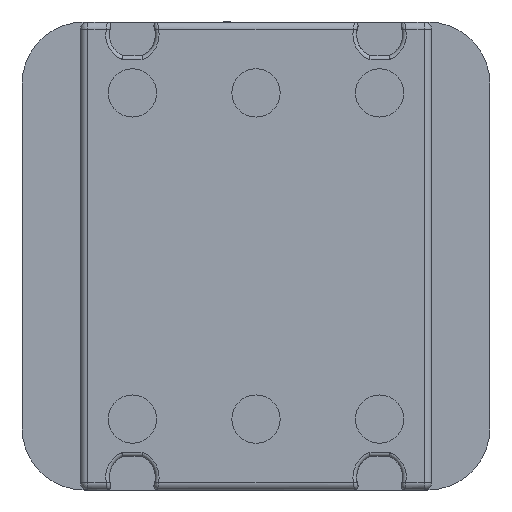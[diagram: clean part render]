
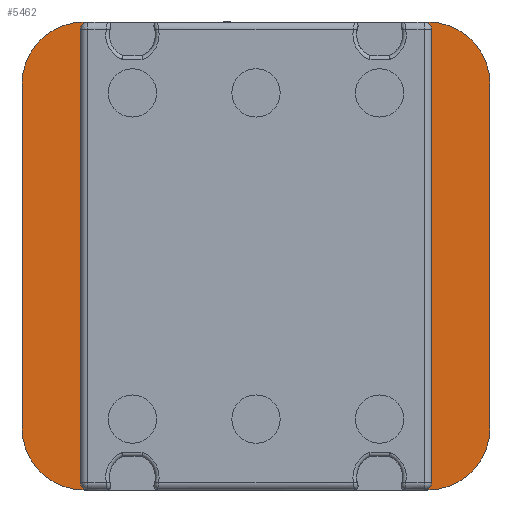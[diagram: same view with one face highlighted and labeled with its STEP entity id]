
A CAD part, front view. The second image highlights one B-rep face of the part: STEP entity #5462.
In plain terms, the highlighted planar face has unit normal (0, -1, 0).
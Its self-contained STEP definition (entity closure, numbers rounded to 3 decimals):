
#209 = EDGE_CURVE ( 'NONE', #9096, #5317, #3159, .T. ) ;
#319 = AXIS2_PLACEMENT_3D ( 'NONE', #6802, #479, #7835 ) ;
#354 = CARTESIAN_POINT ( 'NONE',  ( 440.451, 184.516, 56. ) ) ;
#479 = DIRECTION ( 'NONE',  ( 0., 1., 0. ) ) ;
#542 = VERTEX_POINT ( 'NONE', #354 ) ;
#682 = VERTEX_POINT ( 'NONE', #5764 ) ;
#704 = DIRECTION ( 'NONE',  ( 1., 0., 0. ) ) ;
#835 = DIRECTION ( 'NONE',  ( 0., 0., -1. ) ) ;
#933 = AXIS2_PLACEMENT_3D ( 'NONE', #10105, #3885, #11153 ) ;
#948 = VECTOR ( 'NONE', #835, 1000. ) ;
#1130 = CARTESIAN_POINT ( 'NONE',  ( 440.451, 184.516, 0.5 ) ) ;
#1266 = CARTESIAN_POINT ( 'NONE',  ( 393.451, 184.516, 47.5 ) ) ;
#1611 = CARTESIAN_POINT ( 'NONE',  ( 384.951, 184.516, 47.5 ) ) ;
#1714 = ORIENTED_EDGE ( 'NONE', *, *, #10300, .F. ) ;
#1856 = ORIENTED_EDGE ( 'NONE', *, *, #6941, .F. ) ;
#2343 = DIRECTION ( 'NONE',  ( 0., 0., 1. ) ) ;
#2440 = AXIS2_PLACEMENT_3D ( 'NONE', #1266, #8620, #2343 ) ;
#2486 = LINE ( 'NONE', #4342, #10479 ) ;
#2516 = ORIENTED_EDGE ( 'NONE', *, *, #10109, .F. ) ;
#2634 = CARTESIAN_POINT ( 'NONE',  ( 384.951, 184.516, 0.5 ) ) ;
#3080 = CARTESIAN_POINT ( 'NONE',  ( 448.951, 184.516, -8. ) ) ;
#3159 = CIRCLE ( 'NONE', #7218, 8.5 ) ;
#3178 = EDGE_CURVE ( 'NONE', #4580, #682, #8070, .T. ) ;
#3463 = ORIENTED_EDGE ( 'NONE', *, *, #3656, .F. ) ;
#3475 = VECTOR ( 'NONE', #4156, 1000. ) ;
#3656 = EDGE_CURVE ( 'NONE', #542, #3693, #4641, .T. ) ;
#3666 = CARTESIAN_POINT ( 'NONE',  ( 448.951, 184.516, 74.611 ) ) ;
#3693 = VERTEX_POINT ( 'NONE', #7060 ) ;
#3885 = DIRECTION ( 'NONE',  ( 0., 1., 0. ) ) ;
#4156 = DIRECTION ( 'NONE',  ( -1., 0., 0. ) ) ;
#4342 = CARTESIAN_POINT ( 'NONE',  ( 384.951, 184.516, 74.611 ) ) ;
#4460 = AXIS2_PLACEMENT_3D ( 'NONE', #3666, #13007, #6846 ) ;
#4580 = VERTEX_POINT ( 'NONE', #1611 ) ;
#4636 = CARTESIAN_POINT ( 'NONE',  ( 448.951, 184.516, 0.5 ) ) ;
#4641 = CIRCLE ( 'NONE', #933, 8.5 ) ;
#5163 = VECTOR ( 'NONE', #704, 1000. ) ;
#5317 = VERTEX_POINT ( 'NONE', #13068 ) ;
#5407 = ORIENTED_EDGE ( 'NONE', *, *, #209, .F. ) ;
#5462 = ADVANCED_FACE ( 'NONE', ( #11388 ), #5797, .F. ) ;
#5651 = ORIENTED_EDGE ( 'NONE', *, *, #9978, .F. ) ;
#5764 = CARTESIAN_POINT ( 'NONE',  ( 393.451, 184.516, 56. ) ) ;
#5797 = PLANE ( 'NONE',  #4460 ) ;
#6740 = EDGE_LOOP ( 'NONE', ( #2516, #5407, #10089, #3463, #5651, #13446, #1714, #1856 ) ) ;
#6802 = CARTESIAN_POINT ( 'NONE',  ( 393.451, 184.516, 0.5 ) ) ;
#6846 = DIRECTION ( 'NONE',  ( 0., 0., 1. ) ) ;
#6941 = EDGE_CURVE ( 'NONE', #8695, #7688, #8619, .T. ) ;
#7060 = CARTESIAN_POINT ( 'NONE',  ( 448.951, 184.516, 47.5 ) ) ;
#7218 = AXIS2_PLACEMENT_3D ( 'NONE', #1130, #9964, #11402 ) ;
#7688 = VERTEX_POINT ( 'NONE', #2634 ) ;
#7835 = DIRECTION ( 'NONE',  ( 0., 0., 1. ) ) ;
#8070 = CIRCLE ( 'NONE', #2440, 8.5 ) ;
#8071 = CARTESIAN_POINT ( 'NONE',  ( 448.951, 184.516, 56. ) ) ;
#8619 = CIRCLE ( 'NONE', #319, 8.5 ) ;
#8620 = DIRECTION ( 'NONE',  ( 0., 1., 0. ) ) ;
#8695 = VERTEX_POINT ( 'NONE', #11216 ) ;
#9096 = VERTEX_POINT ( 'NONE', #4636 ) ;
#9313 = LINE ( 'NONE', #13335, #948 ) ;
#9346 = LINE ( 'NONE', #3080, #3475 ) ;
#9964 = DIRECTION ( 'NONE',  ( 0., 1., 0. ) ) ;
#9978 = EDGE_CURVE ( 'NONE', #682, #542, #13390, .T. ) ;
#10089 = ORIENTED_EDGE ( 'NONE', *, *, #13185, .F. ) ;
#10105 = CARTESIAN_POINT ( 'NONE',  ( 440.451, 184.516, 47.5 ) ) ;
#10109 = EDGE_CURVE ( 'NONE', #5317, #8695, #9346, .T. ) ;
#10300 = EDGE_CURVE ( 'NONE', #7688, #4580, #2486, .T. ) ;
#10479 = VECTOR ( 'NONE', #11536, 1000. ) ;
#11153 = DIRECTION ( 'NONE',  ( 0., 0., 1. ) ) ;
#11216 = CARTESIAN_POINT ( 'NONE',  ( 393.451, 184.516, -8. ) ) ;
#11388 = FACE_OUTER_BOUND ( 'NONE', #6740, .T. ) ;
#11402 = DIRECTION ( 'NONE',  ( 0., 0., 1. ) ) ;
#11536 = DIRECTION ( 'NONE',  ( 0., 0., 1. ) ) ;
#13007 = DIRECTION ( 'NONE',  ( 0., 1., 0. ) ) ;
#13068 = CARTESIAN_POINT ( 'NONE',  ( 440.451, 184.516, -8. ) ) ;
#13185 = EDGE_CURVE ( 'NONE', #3693, #9096, #9313, .T. ) ;
#13335 = CARTESIAN_POINT ( 'NONE',  ( 448.951, 184.516, 74.611 ) ) ;
#13390 = LINE ( 'NONE', #8071, #5163 ) ;
#13446 = ORIENTED_EDGE ( 'NONE', *, *, #3178, .F. ) ;
